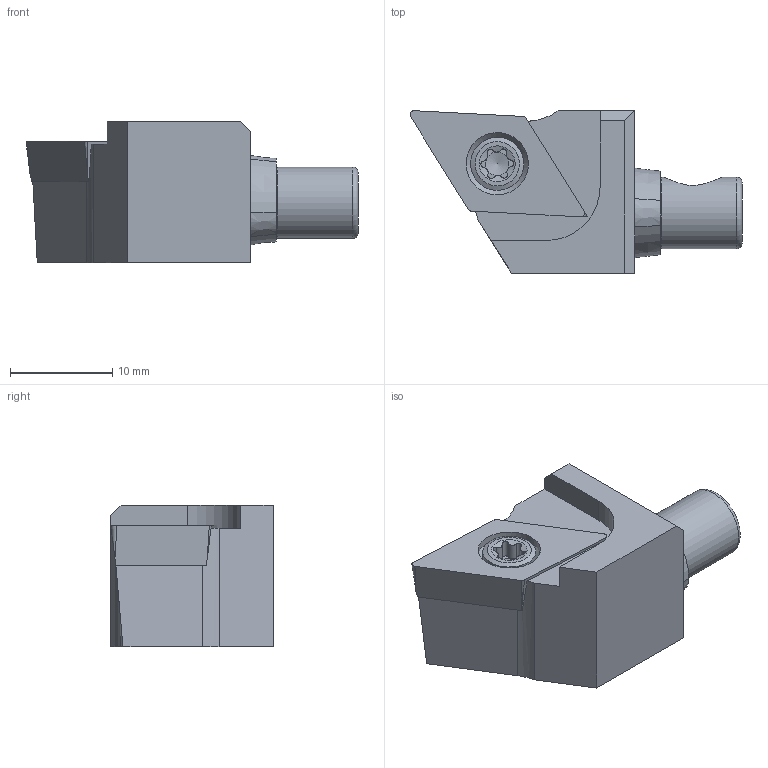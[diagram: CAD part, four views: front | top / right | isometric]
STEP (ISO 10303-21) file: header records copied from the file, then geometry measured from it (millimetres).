
FILE_DESCRIPTION(/* description */ (''),/* implementation_level */ '2;1');
FILE_NAME(/* name */ 'WEBDA_E00021494_00_DIN4003.stp',/* time_stamp */ '2021-09-20T08:47:18+02:00',/* author */ (''),/* organization */ (''),/* preprocessor_version */ 'ST-DEVELOPER v16',/* originating_system */ 'SIEMENS PLM Software NX 11.0',/* authorisation */ '');
FILE_SCHEMA (('AUTOMOTIVE_DESIGN { 1 0 10303 214 3 1 1 1 }'));
Length unit declared in the file: millimetre
Products named in the file (1): ja.h510065E0pwbz
Bounding box: 32.5 x 15.9 x 13.9 mm (x, y, z)
Volume: 3547.9 mm3; surface area: 2201.3 mm2
Topology: 2 solids, 2 shells, 86 faces, 230 edges, 156 vertices
Faces by surface type: plane 35, cylinder 27, cone 21, torus 3
Full cylindrical faces by diameter (mm): 2 x1, 3.4 x1, 3.5 x1, 4.4 x1, 5.2 x1, 6.1 x1, 6.99 x1
Entity records: 2967 total; most frequent: CARTESIAN_POINT 823, DIRECTION 454, ORIENTED_EDGE 382, EDGE_CURVE 191, AXIS2_PLACEMENT_3D 183, VERTEX_POINT 132, EDGE_LOOP 112, LINE 88
